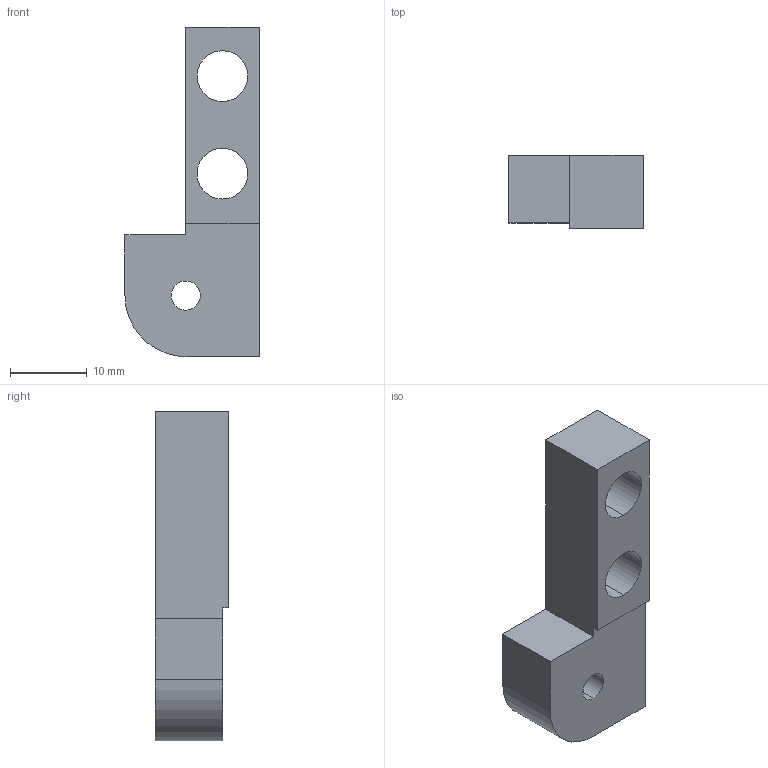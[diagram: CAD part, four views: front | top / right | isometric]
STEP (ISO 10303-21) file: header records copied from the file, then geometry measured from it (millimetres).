
FILE_DESCRIPTION (( 'STEP AP203' ), '1' );
FILE_NAME ('269-18-210.STEP', '2020-03-03T15:56:44', ( '' ), ( '' ), 'SwSTEP 2.0', 'SolidWorks 2017', '' );
FILE_SCHEMA (( 'CONFIG_CONTROL_DESIGN' ));
Length unit declared in the file: inch
Products named in the file (1): 269-18-210
Bounding box: 17.46 x 9.53 x 42.88 mm (x, y, z)
Volume: 3990.1 mm3; surface area: 2456.8 mm2
Topology: 1 solids, 1 shells, 19 faces, 49 edges, 32 vertices
Faces by surface type: plane 10, cylinder 7, cone 2
Entity records: 674 total; most frequent: DIRECTION 105, CARTESIAN_POINT 101, ORIENTED_EDGE 98, EDGE_CURVE 49, AXIS2_PLACEMENT_3D 36, LINE 33, VECTOR 33, VERTEX_POINT 32
